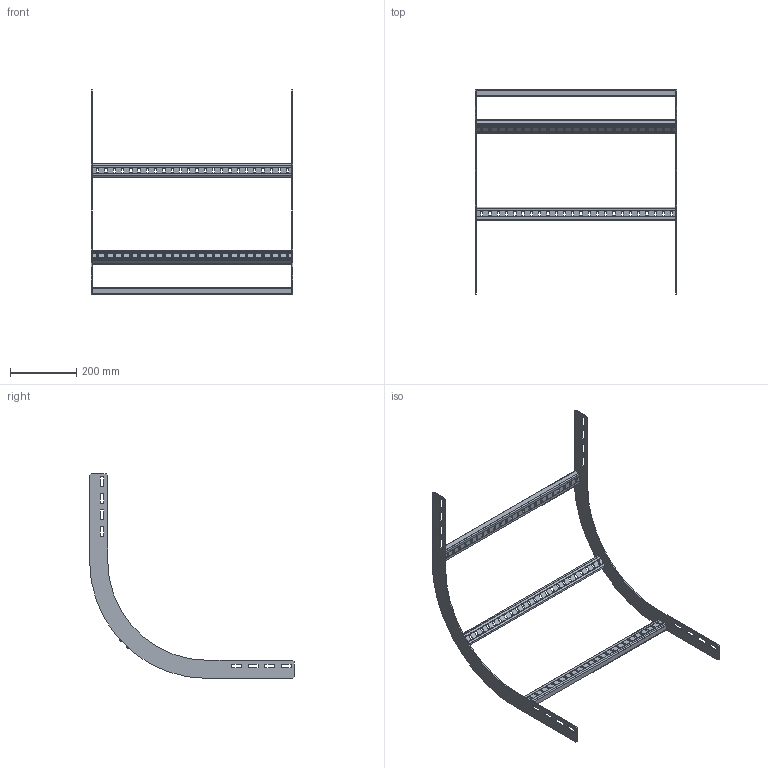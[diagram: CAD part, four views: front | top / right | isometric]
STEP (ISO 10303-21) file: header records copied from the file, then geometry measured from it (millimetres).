
FILE_DESCRIPTION(('Creo Elements/Direct Modeling STEP Export'),'2;1');
FILE_NAME('//pserver/office/EK/ME10-3D/3D-output/WPIR06-60-90-30.stp','2019-08-14T 9:40:33',(''),(''),'PTC Creo Elements/Direct Modeling STEP processor for AP214 (Solid Model)','PTC Creo Elements/Direct Modeling 19.0C 15-Aug-2015 (C) Parametric Technology GmbH','');
FILE_SCHEMA(('AUTOMOTIVE_DESIGN { 1 0 10303 214 1 1 1 1 }'));
Length unit declared in the file: millimetre
Products named in the file (3): WPIRS_60-90-300.002; WPBS60.1.1.1; WPIR06-60-90-30
Assembly tree (5 placements, depth 2):
  WPIR06-60-90-30
    WPIRS_60-90-300.002  x2
    WPBS60.1.1.1  x3
Bounding box: 611 x 620 x 620 mm (x, y, z)
Volume: 592669.6 mm3; surface area: 599552.3 mm2
Topology: 5 solids, 5 shells, 500 faces, 1470 edges, 980 vertices
Faces by surface type: plane 298, cylinder 202
Entity records: 6276 total; most frequent: CARTESIAN_POINT 1077, ORIENTED_EDGE 1068, DIRECTION 1044, EDGE_CURVE 534, VECTOR 398, LINE 398, VERTEX_POINT 356, AXIS2_PLACEMENT_3D 323
